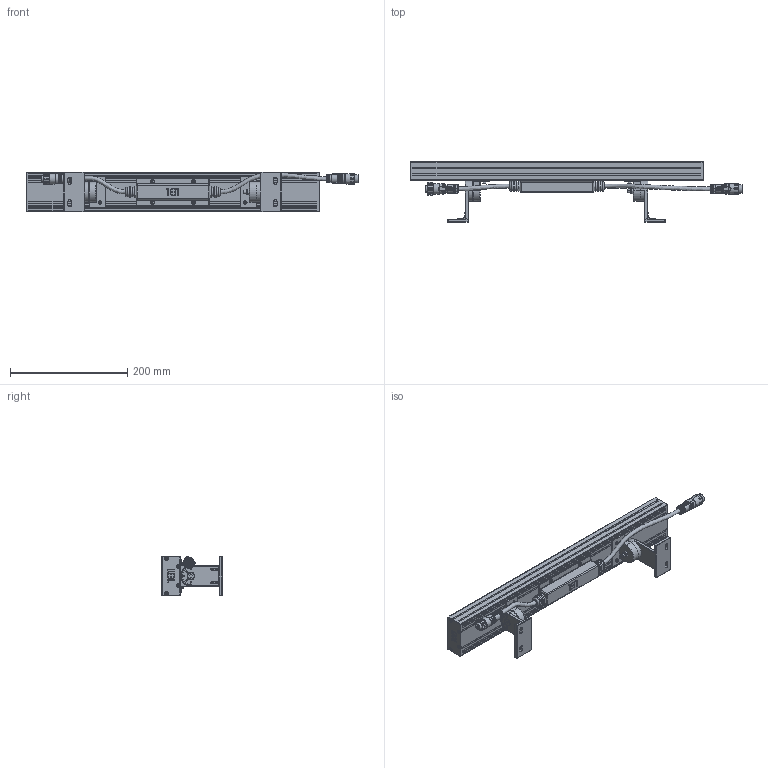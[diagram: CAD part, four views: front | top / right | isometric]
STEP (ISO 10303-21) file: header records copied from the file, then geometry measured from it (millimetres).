
FILE_DESCRIPTION (( 'STEP AP214' ), '1' );
FILE_NAME ('Linear G100 L500 VDC.STEP', '2025-07-08T12:42:06', ( '' ), ( '' ), 'SwSTEP 2.0', 'SolidWorks 2025', '' );
FILE_SCHEMA (( 'AUTOMOTIVE_DESIGN' ));
Length unit declared in the file: millimetre
Products named in the file (8): Linear G100 - Body_L500; M16 5p Female; Linear G54 & G100 - Feet fixed_G100; Part80^Linear G100_L500 24V; Linear G100 - VDC Bakje; Linear G54 & G100 - Feet free rotation_G100; Linear G100 L500 VDC; M16 5p Male
Assembly tree (7 placements, depth 2):
  Linear G100 L500 VDC
    Linear G100 - Body_L500
    Linear G100 - VDC Bakje
    M16 5p Female
    M16 5p Male
    Part80^Linear G100_L500 24V
    Linear G54 & G100 - Feet fixed_G100
    Linear G54 & G100 - Feet free rotation_G100
Bounding box: 565.3 x 102.5 x 67.3 mm (x, y, z)
Volume: 1224335 mm3; surface area: 196317.4 mm2
Topology: 18 solids, 31 shells, 2902 faces, 6986 edges, 4217 vertices
Faces by surface type: plane 1604, cylinder 737, torus 187, cone 170, bspline 166, sphere 38
Full cylindrical faces by diameter (mm): 2.7 x4, 9.2 x1, 11.1 x1, 14.25 x1, 14.3 x1, 15.5 x2, 17 x2, 18 x1, 19 x18
Entity records: 103465 total; most frequent: CARTESIAN_POINT 30348, ORIENTED_EDGE 13646, DIRECTION 12701, EDGE_CURVE 6823, AXIS2_PLACEMENT_3D 4454, VERTEX_POINT 4199, LINE 3793, VECTOR 3793
